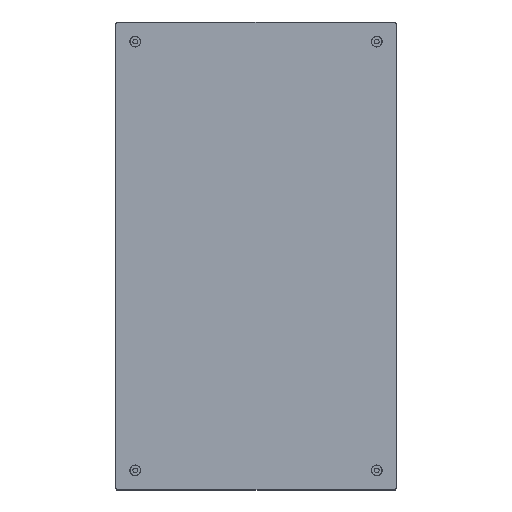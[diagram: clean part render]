
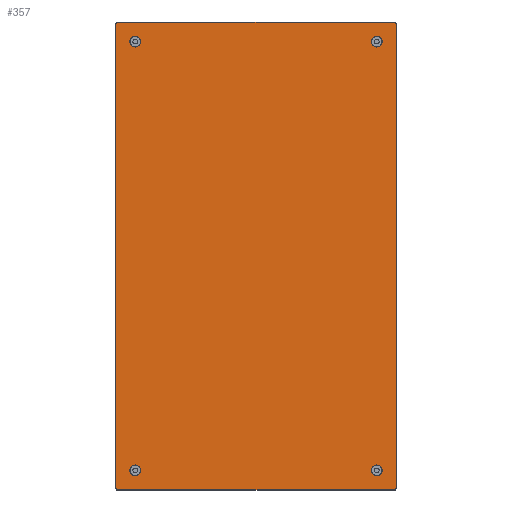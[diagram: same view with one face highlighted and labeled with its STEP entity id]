
A CAD part, front view. The second image highlights one B-rep face of the part: STEP entity #357.
In plain terms, the highlighted planar face has unit normal (0, -1, 0).
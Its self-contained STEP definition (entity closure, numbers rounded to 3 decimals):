
#357 = ADVANCED_FACE('',(#358,#456,#476,#487,#507),#518,.T.);
#358 = FACE_BOUND('',#359,.T.);
#359 = EDGE_LOOP('',(#360,#370,#378,#386,#394,#402,#410,#418,#426,#434,
    #442,#450));
#360 = ORIENTED_EDGE('',*,*,#361,.F.);
#361 = EDGE_CURVE('',#362,#364,#366,.T.);
#362 = VERTEX_POINT('',#363);
#363 = CARTESIAN_POINT('',(-150.,-1.2,248.729));
#364 = VERTEX_POINT('',#365);
#365 = CARTESIAN_POINT('',(-148.729,-1.2,248.729));
#366 = LINE('',#367,#368);
#367 = CARTESIAN_POINT('',(0.,-1.2,248.729));
#368 = VECTOR('',#369,1.);
#369 = DIRECTION('',(1.,-0.,0.));
#370 = ORIENTED_EDGE('',*,*,#371,.T.);
#371 = EDGE_CURVE('',#362,#372,#374,.T.);
#372 = VERTEX_POINT('',#373);
#373 = CARTESIAN_POINT('',(-150.,-1.2,-248.729));
#374 = LINE('',#375,#376);
#375 = CARTESIAN_POINT('',(-150.,-1.2,2750.));
#376 = VECTOR('',#377,1.);
#377 = DIRECTION('',(0.,0.,-1.));
#378 = ORIENTED_EDGE('',*,*,#379,.T.);
#379 = EDGE_CURVE('',#372,#380,#382,.T.);
#380 = VERTEX_POINT('',#381);
#381 = CARTESIAN_POINT('',(-148.729,-1.2,-248.729));
#382 = LINE('',#383,#384);
#383 = CARTESIAN_POINT('',(-150.,-1.2,-248.729));
#384 = VECTOR('',#385,1.);
#385 = DIRECTION('',(1.,0.,0.));
#386 = ORIENTED_EDGE('',*,*,#387,.F.);
#387 = EDGE_CURVE('',#388,#380,#390,.T.);
#388 = VERTEX_POINT('',#389);
#389 = CARTESIAN_POINT('',(-148.729,-1.2,-250.));
#390 = LINE('',#391,#392);
#391 = CARTESIAN_POINT('',(-148.729,-1.2,0.));
#392 = VECTOR('',#393,1.);
#393 = DIRECTION('',(0.,-0.,1.));
#394 = ORIENTED_EDGE('',*,*,#395,.T.);
#395 = EDGE_CURVE('',#388,#396,#398,.T.);
#396 = VERTEX_POINT('',#397);
#397 = CARTESIAN_POINT('',(148.729,-1.2,-250.));
#398 = LINE('',#399,#400);
#399 = CARTESIAN_POINT('',(-2650.,-1.2,-250.));
#400 = VECTOR('',#401,1.);
#401 = DIRECTION('',(1.,0.,0.));
#402 = ORIENTED_EDGE('',*,*,#403,.T.);
#403 = EDGE_CURVE('',#396,#404,#406,.T.);
#404 = VERTEX_POINT('',#405);
#405 = CARTESIAN_POINT('',(148.729,-1.2,-248.729));
#406 = LINE('',#407,#408);
#407 = CARTESIAN_POINT('',(148.729,-1.2,-250.));
#408 = VECTOR('',#409,1.);
#409 = DIRECTION('',(0.,0.,1.));
#410 = ORIENTED_EDGE('',*,*,#411,.F.);
#411 = EDGE_CURVE('',#412,#404,#414,.T.);
#412 = VERTEX_POINT('',#413);
#413 = CARTESIAN_POINT('',(150.,-1.2,-248.729));
#414 = LINE('',#415,#416);
#415 = CARTESIAN_POINT('',(0.,-1.2,-248.729));
#416 = VECTOR('',#417,1.);
#417 = DIRECTION('',(-1.,-0.,-0.));
#418 = ORIENTED_EDGE('',*,*,#419,.T.);
#419 = EDGE_CURVE('',#412,#420,#422,.T.);
#420 = VERTEX_POINT('',#421);
#421 = CARTESIAN_POINT('',(150.,-1.2,248.729));
#422 = LINE('',#423,#424);
#423 = CARTESIAN_POINT('',(150.,-1.2,-2750.));
#424 = VECTOR('',#425,1.);
#425 = DIRECTION('',(0.,0.,1.));
#426 = ORIENTED_EDGE('',*,*,#427,.T.);
#427 = EDGE_CURVE('',#420,#428,#430,.T.);
#428 = VERTEX_POINT('',#429);
#429 = CARTESIAN_POINT('',(148.729,-1.2,248.729));
#430 = LINE('',#431,#432);
#431 = CARTESIAN_POINT('',(150.,-1.2,248.729));
#432 = VECTOR('',#433,1.);
#433 = DIRECTION('',(-1.,0.,0.));
#434 = ORIENTED_EDGE('',*,*,#435,.F.);
#435 = EDGE_CURVE('',#436,#428,#438,.T.);
#436 = VERTEX_POINT('',#437);
#437 = CARTESIAN_POINT('',(148.729,-1.2,250.));
#438 = LINE('',#439,#440);
#439 = CARTESIAN_POINT('',(148.729,-1.2,0.));
#440 = VECTOR('',#441,1.);
#441 = DIRECTION('',(0.,-0.,-1.));
#442 = ORIENTED_EDGE('',*,*,#443,.T.);
#443 = EDGE_CURVE('',#436,#444,#446,.T.);
#444 = VERTEX_POINT('',#445);
#445 = CARTESIAN_POINT('',(-148.729,-1.2,250.));
#446 = LINE('',#447,#448);
#447 = CARTESIAN_POINT('',(2650.,-1.2,250.));
#448 = VECTOR('',#449,1.);
#449 = DIRECTION('',(-1.,0.,0.));
#450 = ORIENTED_EDGE('',*,*,#451,.T.);
#451 = EDGE_CURVE('',#444,#364,#452,.T.);
#452 = LINE('',#453,#454);
#453 = CARTESIAN_POINT('',(-148.729,-1.2,250.));
#454 = VECTOR('',#455,1.);
#455 = DIRECTION('',(0.,0.,-1.));
#456 = FACE_BOUND('',#457,.T.);
#457 = EDGE_LOOP('',(#458,#469));
#458 = ORIENTED_EDGE('',*,*,#459,.F.);
#459 = EDGE_CURVE('',#460,#462,#464,.T.);
#460 = VERTEX_POINT('',#461);
#461 = CARTESIAN_POINT('',(-129.,-1.2,-225.));
#462 = VERTEX_POINT('',#463);
#463 = CARTESIAN_POINT('',(-129.,-1.2,-233.));
#464 = CIRCLE('',#465,4.);
#465 = AXIS2_PLACEMENT_3D('',#466,#467,#468);
#466 = CARTESIAN_POINT('',(-129.,-1.2,-229.));
#467 = DIRECTION('',(0.,-1.,0.));
#468 = DIRECTION('',(0.,0.,1.));
#469 = ORIENTED_EDGE('',*,*,#470,.F.);
#470 = EDGE_CURVE('',#462,#460,#471,.T.);
#471 = CIRCLE('',#472,4.);
#472 = AXIS2_PLACEMENT_3D('',#473,#474,#475);
#473 = CARTESIAN_POINT('',(-129.,-1.2,-229.));
#474 = DIRECTION('',(0.,-1.,0.));
#475 = DIRECTION('',(0.,0.,1.));
#476 = FACE_BOUND('',#477,.T.);
#477 = EDGE_LOOP('',(#478));
#478 = ORIENTED_EDGE('',*,*,#479,.F.);
#479 = EDGE_CURVE('',#480,#480,#482,.T.);
#480 = VERTEX_POINT('',#481);
#481 = CARTESIAN_POINT('',(129.,-1.2,-233.));
#482 = CIRCLE('',#483,4.);
#483 = AXIS2_PLACEMENT_3D('',#484,#485,#486);
#484 = CARTESIAN_POINT('',(129.,-1.2,-229.));
#485 = DIRECTION('',(0.,-1.,0.));
#486 = DIRECTION('',(0.,0.,-1.));
#487 = FACE_BOUND('',#488,.T.);
#488 = EDGE_LOOP('',(#489,#500));
#489 = ORIENTED_EDGE('',*,*,#490,.F.);
#490 = EDGE_CURVE('',#491,#493,#495,.T.);
#491 = VERTEX_POINT('',#492);
#492 = CARTESIAN_POINT('',(129.,-1.2,233.));
#493 = VERTEX_POINT('',#494);
#494 = CARTESIAN_POINT('',(129.,-1.2,225.));
#495 = CIRCLE('',#496,4.);
#496 = AXIS2_PLACEMENT_3D('',#497,#498,#499);
#497 = CARTESIAN_POINT('',(129.,-1.2,229.));
#498 = DIRECTION('',(0.,-1.,0.));
#499 = DIRECTION('',(0.,0.,1.));
#500 = ORIENTED_EDGE('',*,*,#501,.F.);
#501 = EDGE_CURVE('',#493,#491,#502,.T.);
#502 = CIRCLE('',#503,4.);
#503 = AXIS2_PLACEMENT_3D('',#504,#505,#506);
#504 = CARTESIAN_POINT('',(129.,-1.2,229.));
#505 = DIRECTION('',(0.,-1.,0.));
#506 = DIRECTION('',(0.,0.,1.));
#507 = FACE_BOUND('',#508,.T.);
#508 = EDGE_LOOP('',(#509));
#509 = ORIENTED_EDGE('',*,*,#510,.F.);
#510 = EDGE_CURVE('',#511,#511,#513,.T.);
#511 = VERTEX_POINT('',#512);
#512 = CARTESIAN_POINT('',(-129.,-1.2,225.));
#513 = CIRCLE('',#514,4.);
#514 = AXIS2_PLACEMENT_3D('',#515,#516,#517);
#515 = CARTESIAN_POINT('',(-129.,-1.2,229.));
#516 = DIRECTION('',(0.,-1.,0.));
#517 = DIRECTION('',(0.,0.,-1.));
#518 = PLANE('',#519);
#519 = AXIS2_PLACEMENT_3D('',#520,#521,#522);
#520 = CARTESIAN_POINT('',(0.,-1.2,0.));
#521 = DIRECTION('',(0.,-1.,0.));
#522 = DIRECTION('',(0.,-0.,-1.));
